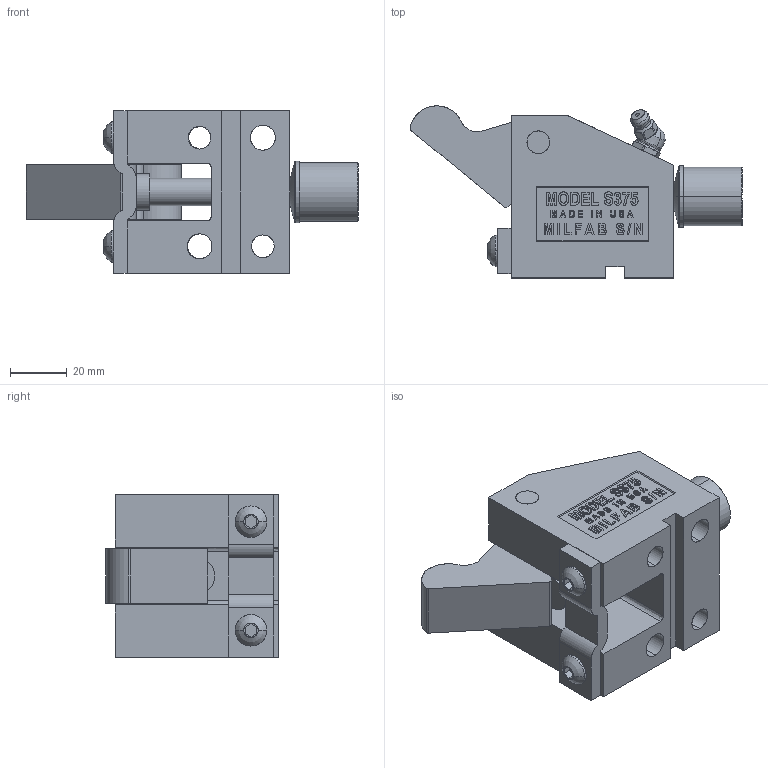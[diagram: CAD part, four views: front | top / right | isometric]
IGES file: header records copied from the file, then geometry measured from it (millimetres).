
Start section: SolidWorks IGES file using analytic representation for surfaces
Global section: file name: Y:\JIM'S INCH CAM UNITS\S37545\OPEN\S37545-O.IGS; native system: SolidWorks 2006 by SolidWorks Corporation; preprocessor: SolidWorks 2006 by SolidWorks Corporation; author: Jim; date: 090207.151101; units: inch
Bounding box: 116.56 x 60.44 x 57.15 mm (x, y, z)
Surface area: 44848.6 mm2 (no closed solid volume)
Topology: 0 solids, 0 shells, 577 faces, 7307 edges, 7305 vertices
Faces by surface type: bspline 449, revolution 128
